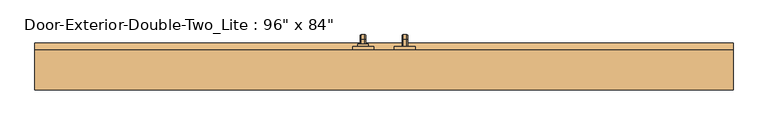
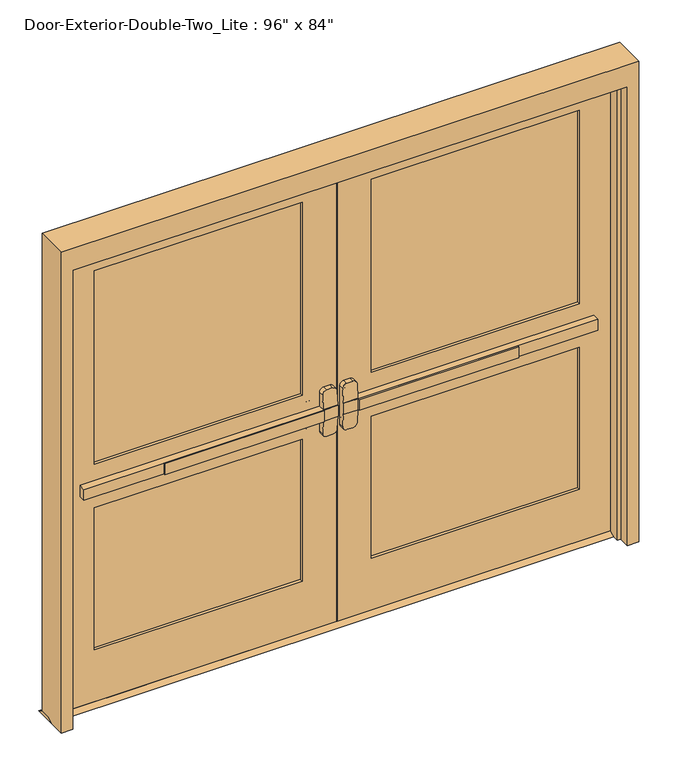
"""IFC4 building model written with IfcOpenShell, lengths in millimetres: door geometry."""

from ifc_helpers import new_model, si_unit, point, frame, frame_2d, origin, place, context, project, spatial, polyline, circle_curve, ellipse_curve, trimmed, segment, composite_curve, outline, extrude, faceted_brep, source, transform, mapped, element, save
from ifc_brep_helpers import plane_surface, cylinder_surface, revolved_surface, advanced_brep


def door_a749ae1c(model_context):
    return source(origin(), model_context, "Body", "SolidModel", [
        extrude(outline(polyline([(-778.9333333, 53.975), (-778.9333333, 60.325), (-76.2, 60.325), (-76.2, 53.975), (-778.9333333, 53.975)])), frame((0.0, 0.0, 990.6), z_axis=(0.0, 0.0, 1.0), x_axis=(1.0, 0.0, 0.0)), (0.0, 0.0, 1.0), 50.8),
        advanced_brep(
        [(-12.7, 60.325, 1041.4), (-76.2, 60.325, 1041.4), (-1130.3, 60.325, 1041.4), (-1130.3, 60.325, 990.6), (-76.2, 60.325, 990.6), (-12.7, 60.325, 990.6), (-1130.3, 92.075, 1041.4), (-76.2, 92.075, 1041.4), (-76.2, 92.075, 1104.9), (-57.15, 92.075, 1123.95), (-31.75, 92.075, 1123.95), (-12.7, 92.075, 1104.9), (-12.7, 92.075, 927.1), (-31.75, 92.075, 908.05), (-57.15, 92.075, 908.05), (-76.2, 92.075, 927.1), (-76.2, 92.075, 990.6), (-1130.3, 92.075, 990.6), (-12.7, 63.5002467, 1041.4), (-76.2, 63.5002467, 1041.4), (-12.7, 63.5002467, 990.6), (-12.7, 68.5104269, 927.1), (-12.7, 68.5104269, 1104.9), (-76.2, 63.5002467, 990.6), (-76.2, 68.5104269, 1104.9), (-76.2, 68.5104269, 927.1), (-57.15, 70.013481, 1123.95), (-31.75, 70.013481, 1123.95), (-31.75, 70.013481, 908.05), (-57.15, 70.013481, 908.05)],
        [
            (0, 1),
            (1, 2),
            (2, 3),
            (3, 4),
            (4, 5),
            (5, 0),
            (6, 7),
            (7, 8),
            (8, 9, circle_curve(frame((-57.15, 92.075, 1104.9), z_axis=(0.0, 1.0, 0.0), x_axis=(-1.0, 0.0, 0.0)), 19.05)),
            (9, 10),
            (10, 11, circle_curve(frame((-31.75, 92.075, 1104.9), z_axis=(0.0, 1.0, 0.0), x_axis=(-1.0, 0.0, 0.0)), 19.05)),
            (11, 12),
            (12, 13, circle_curve(frame((-31.75, 92.075, 927.1), z_axis=(0.0, 1.0, 0.0), x_axis=(-1.0, 0.0, 0.0)), 19.05)),
            (13, 14),
            (14, 15, circle_curve(frame((-57.15, 92.075, 927.1), z_axis=(0.0, 1.0, 0.0), x_axis=(-1.0, 0.0, 0.0)), 19.05)),
            (15, 16),
            (16, 17),
            (17, 6),
            (0, 18),
            (18, 19),
            (19, 7),
            (6, 2),
            (5, 20),
            (20, 21),
            (21, 12),
            (11, 22),
            (22, 18),
            (16, 23),
            (23, 20),
            (3, 17),
            (19, 24),
            (24, 8),
            (15, 25),
            (25, 23),
            (9, 26),
            (26, 27),
            (27, 10),
            (13, 28),
            (28, 29),
            (29, 14),
            (29, 25, ellipse_curve(frame((-57.15, 68.5104269, 927.1), z_axis=(0.0, 0.9969018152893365, 0.07865602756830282), x_axis=(0.0, -0.07865602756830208, 0.9969018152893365)), 19.1092038, 19.05)),
            (24, 26, ellipse_curve(frame((-57.15, 68.5104269, 1104.9), z_axis=(0.0, 0.9969018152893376, -0.07865602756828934), x_axis=(0.0, -0.078656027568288, -0.9969018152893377)), 19.1092038, 19.05)),
            (27, 22, ellipse_curve(frame((-31.75, 68.5104269, 1104.9), z_axis=(0.0, 0.9969018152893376, -0.07865602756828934), x_axis=(0.0, -0.078656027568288, -0.9969018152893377)), 19.1092038, 19.05)),
            (21, 28, ellipse_curve(frame((-31.75, 68.5104269, 927.1), z_axis=(0.0, 0.9969018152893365, 0.07865602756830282), x_axis=(0.0, -0.07865602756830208, 0.9969018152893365)), 19.1092038, 19.05)),
        ],
        [
            plane_surface(frame((-12.7, 60.325, 1041.4), z_axis=(0.0, -1.0, 0.0), x_axis=(1.0, 0.0, 0.0))),
            plane_surface(frame((-12.7, 92.075, 1041.4), z_axis=(0.0, 1.0, 0.0), x_axis=(-1.0, 0.0, 0.0))),
            plane_surface(frame((-1130.3, 60.325, 1041.4), z_axis=(0.0, 0.0, 1.0), x_axis=(0.0, 1.0, 0.0))),
            plane_surface(frame((-12.7, 60.325, 1041.4), z_axis=(1.0, 0.0, 0.0), x_axis=(0.0, 1.0, 0.0))),
            plane_surface(frame((-12.7, 60.325, 990.6), z_axis=(0.0, 0.0, -1.0), x_axis=(0.0, 1.0, 0.0))),
            plane_surface(frame((-1130.3, 60.325, 990.6), z_axis=(-1.0, 0.0, 0.0), x_axis=(0.0, 1.0, 0.0))),
            plane_surface(frame((-76.2, 63.5002467, 927.1), z_axis=(-1.0, 0.0, 0.0), x_axis=(0.0, 1.0, 0.0))),
            plane_surface(frame((-57.15, 63.5002467, 1123.95), z_axis=(0.0, 0.0, 1.0), x_axis=(0.0, 1.0, 0.0))),
            plane_surface(frame((-31.75, 63.5002467, 908.05), z_axis=(0.0, 0.0, -1.0), x_axis=(0.0, 1.0, 0.0))),
            cylinder_surface(frame((-57.15, 92.075, 927.1), z_axis=(0.0, -1.0, 0.0), x_axis=(-1.0, 0.0, 0.0)), 19.05),
            cylinder_surface(frame((-57.15, 92.075, 1104.9), z_axis=(0.0, -1.0, 0.0), x_axis=(-1.0, 0.0, 0.0)), 19.05),
            cylinder_surface(frame((-31.75, 92.075, 1104.9), z_axis=(0.0, -1.0, 0.0), x_axis=(-1.0, 0.0, 0.0)), 19.05),
            cylinder_surface(frame((-31.75, 92.075, 927.1), z_axis=(0.0, -1.0, 0.0), x_axis=(-1.0, 0.0, 0.0)), 19.05),
            plane_surface(frame((-76.2, 63.5002467, 1041.4), z_axis=(0.0, -0.9969018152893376, 0.07865602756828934), x_axis=(1.0, 0.0, 0.0))),
            plane_surface(frame((-76.2, 70.013481, 908.05), z_axis=(0.0, -0.9969018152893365, -0.07865602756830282), x_axis=(1.0, 0.0, 0.0))),
        ],
        [
            (0, [[1, 2, 3, 4, 5, 6]]),
            (1, [[7, 8, 9, 10, 11, 12, 13, 14, 15, 16, 17, 18]]),
            (2, [[-2, -1, 19, 20, 21, -7, 22]]),
            (3, [[23, 24, 25, -12, 26, 27, -19, -6]]),
            (4, [[-17, 28, 29, -23, -5, -4, 30]]),
            (5, [[-22, -18, -30, -3]]),
            (6, [[-21, 31, 32, -8]]),
            (6, [[33, 34, -28, -16]]),
            (7, [[35, 36, 37, -10]]),
            (8, [[38, 39, 40, -14]]),
            (9, [[-40, 41, -33, -15]]),
            (10, [[-32, 42, -35, -9]]),
            (11, [[-37, 43, -26, -11]]),
            (12, [[-25, 44, -38, -13]]),
            (13, [[-27, -43, -36, -42, -31, -20]]),
            (14, [[-29, -34, -41, -39, -44, -24]]),
        ],
    ),
        extrude(outline(polyline([(136.525, 12.7), (161.925, 0.0), (66.675, 0.0), (92.075, 12.7), (136.525, 12.7)])), frame((-1270.0, 0.0, 0.0), z_axis=(1.0, 0.0, 0.0), x_axis=(0.0, 1.0, 0.0)), (0.0, 0.0, 1.0), 2540.0),
        extrude(outline(polyline([(778.9333333, 53.975), (76.2, 53.975), (76.2, 60.325), (778.9333333, 60.325), (778.9333333, 53.975)])), frame((0.0, 0.0, 990.6), z_axis=(0.0, 0.0, 1.0), x_axis=(1.0, 0.0, 0.0)), (0.0, 0.0, 1.0), 50.8),
        advanced_brep(
        [(12.7, 60.325, 1041.4), (12.7, 60.325, 990.6), (76.2, 60.325, 990.6), (1130.3, 60.325, 990.6), (1130.3, 60.325, 1041.4), (76.2, 60.325, 1041.4), (1130.3, 92.075, 1041.4), (1130.3, 92.075, 990.6), (76.2, 92.075, 990.6), (76.2, 92.075, 927.1), (57.15, 92.075, 908.05), (31.75, 92.075, 908.05), (12.7, 92.075, 927.1), (12.7, 92.075, 1104.9), (31.75, 92.075, 1123.95), (57.15, 92.075, 1123.95), (76.2, 92.075, 1104.9), (76.2, 92.075, 1041.4), (76.2, 63.5002467, 1041.4), (12.7, 63.5002467, 1041.4), (12.7, 68.5104269, 1104.9), (12.7, 68.5104269, 927.1), (12.7, 63.5002467, 990.6), (76.2, 63.5002467, 990.6), (76.2, 68.5104269, 927.1), (76.2, 68.5104269, 1104.9), (31.75, 70.013481, 1123.95), (57.15, 70.013481, 1123.95), (57.15, 70.013481, 908.05), (31.75, 70.013481, 908.05)],
        [
            (0, 1),
            (1, 2),
            (2, 3),
            (3, 4),
            (4, 5),
            (5, 0),
            (6, 7),
            (7, 8),
            (8, 9),
            (9, 10, circle_curve(frame((57.15, 92.075, 927.1), z_axis=(0.0, 1.0, 0.0), x_axis=(1.0, 0.0, 0.0)), 19.05)),
            (10, 11),
            (11, 12, circle_curve(frame((31.75, 92.075, 927.1), z_axis=(0.0, 1.0, 0.0), x_axis=(1.0, 0.0, 0.0)), 19.05)),
            (12, 13),
            (13, 14, circle_curve(frame((31.75, 92.075, 1104.9), z_axis=(0.0, 1.0, 0.0), x_axis=(1.0, 0.0, 0.0)), 19.05)),
            (14, 15),
            (15, 16, circle_curve(frame((57.15, 92.075, 1104.9), z_axis=(0.0, 1.0, 0.0), x_axis=(1.0, 0.0, 0.0)), 19.05)),
            (16, 17),
            (17, 6),
            (4, 6),
            (17, 18),
            (18, 19),
            (19, 0),
            (19, 20),
            (20, 13),
            (12, 21),
            (21, 22),
            (22, 1),
            (7, 3),
            (22, 23),
            (23, 8),
            (23, 24),
            (24, 9),
            (16, 25),
            (25, 18),
            (14, 26),
            (26, 27),
            (27, 15),
            (10, 28),
            (28, 29),
            (29, 11),
            (24, 28, ellipse_curve(frame((57.15, 68.5104269, 927.1), z_axis=(0.0, 0.9969018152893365, 0.07865602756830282), x_axis=(0.0, -0.07865602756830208, 0.9969018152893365)), 19.1092038, 19.05)),
            (27, 25, ellipse_curve(frame((57.15, 68.5104269, 1104.9), z_axis=(0.0, 0.9969018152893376, -0.07865602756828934), x_axis=(0.0, -0.078656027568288, -0.9969018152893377)), 19.1092038, 19.05)),
            (20, 26, ellipse_curve(frame((31.75, 68.5104269, 1104.9), z_axis=(0.0, 0.9969018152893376, -0.07865602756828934), x_axis=(0.0, -0.078656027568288, -0.9969018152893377)), 19.1092038, 19.05)),
            (29, 21, ellipse_curve(frame((31.75, 68.5104269, 927.1), z_axis=(0.0, 0.9969018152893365, 0.07865602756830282), x_axis=(0.0, -0.07865602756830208, 0.9969018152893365)), 19.1092038, 19.05)),
        ],
        [
            plane_surface(frame((12.7, 60.325, 1041.4), z_axis=(0.0, -1.0, 0.0), x_axis=(-1.0, 0.0, 0.0))),
            plane_surface(frame((12.7, 92.075, 1041.4), z_axis=(0.0, 1.0, 0.0), x_axis=(1.0, 0.0, 0.0))),
            plane_surface(frame((1130.3, 60.325, 1041.4), z_axis=(0.0, 0.0, 1.0), x_axis=(0.0, 1.0, 0.0))),
            plane_surface(frame((12.7, 60.325, 1041.4), z_axis=(-1.0, 0.0, 0.0), x_axis=(0.0, 1.0, 0.0))),
            plane_surface(frame((12.7, 60.325, 990.6), z_axis=(0.0, 0.0, -1.0), x_axis=(0.0, 1.0, 0.0))),
            plane_surface(frame((1130.3, 60.325, 990.6), z_axis=(1.0, 0.0, 0.0), x_axis=(0.0, 1.0, 0.0))),
            plane_surface(frame((76.2, 63.5002467, 927.1), z_axis=(1.0, 0.0, 0.0), x_axis=(0.0, 1.0, 0.0))),
            plane_surface(frame((57.15, 63.5002467, 1123.95), z_axis=(0.0, 0.0, 1.0), x_axis=(0.0, 1.0, 0.0))),
            plane_surface(frame((31.75, 63.5002467, 908.05), z_axis=(0.0, 0.0, -1.0), x_axis=(0.0, 1.0, 0.0))),
            cylinder_surface(frame((57.15, 92.075, 927.1), z_axis=(0.0, -1.0, 0.0), x_axis=(1.0, 0.0, 0.0)), 19.05),
            cylinder_surface(frame((57.15, 92.075, 1104.9), z_axis=(0.0, -1.0, 0.0), x_axis=(1.0, 0.0, 0.0)), 19.05),
            cylinder_surface(frame((31.75, 92.075, 1104.9), z_axis=(0.0, -1.0, 0.0), x_axis=(1.0, 0.0, 0.0)), 19.05),
            cylinder_surface(frame((31.75, 92.075, 927.1), z_axis=(0.0, -1.0, 0.0), x_axis=(1.0, 0.0, 0.0)), 19.05),
            plane_surface(frame((76.2, 63.5002467, 1041.4), z_axis=(0.0, -0.9969018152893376, 0.07865602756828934), x_axis=(-1.0, 0.0, 0.0))),
            plane_surface(frame((76.2, 70.013481, 908.05), z_axis=(0.0, -0.9969018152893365, -0.07865602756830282), x_axis=(-1.0, 0.0, 0.0))),
        ],
        [
            (0, [[1, 2, 3, 4, 5, 6]]),
            (1, [[7, 8, 9, 10, 11, 12, 13, 14, 15, 16, 17, 18]]),
            (2, [[19, -18, 20, 21, 22, -6, -5]]),
            (3, [[-1, -22, 23, 24, -13, 25, 26, 27]]),
            (4, [[28, -3, -2, -27, 29, 30, -8]]),
            (5, [[-4, -28, -7, -19]]),
            (6, [[-9, -30, 31, 32]]),
            (6, [[-17, 33, 34, -20]]),
            (7, [[-15, 35, 36, 37]]),
            (8, [[-11, 38, 39, 40]]),
            (9, [[-10, -32, 41, -38]]),
            (10, [[-16, -37, 42, -33]]),
            (11, [[-14, -24, 43, -35]]),
            (12, [[-12, -40, 44, -25]]),
            (13, [[-21, -34, -42, -36, -43, -23]]),
            (14, [[-26, -44, -39, -41, -31, -29]]),
        ],
    ),
        advanced_brep(
        [(66.2, 149.225, 1017.190625), (66.2, 149.225, 1014.809375), (69.771875, 149.225, 1011.2375), (82.6284594, 149.225, 1011.2375), (86.2, 149.225, 1014.8090406), (86.2, 149.225, 1017.190625), (82.628125, 149.225, 1020.7625), (69.771875, 149.225, 1020.7625), (66.2, 149.225, 887.809375), (69.771875, 149.225, 884.2375), (82.628125, 149.225, 884.2375), (86.2, 149.225, 887.809375), (86.2, 149.225, 890.1909594), (82.6284594, 149.225, 893.7625), (69.771875, 149.225, 893.7625), (66.2, 149.225, 890.190625), (66.2, 174.625, 1017.190625), (66.2, 188.515625, 1003.3), (66.2, 188.515625, 901.7), (66.2, 174.625, 887.809375), (66.2, 174.625, 890.190625), (66.2, 186.134375, 901.7), (66.2, 186.134375, 1003.3), (66.2, 174.625, 1014.809375), (69.771875, 174.625, 1011.2375), (82.6284594, 174.625, 1011.2375), (86.2, 174.625, 1014.8090406), (86.2, 186.1340406, 1003.3), (86.2, 186.1340406, 901.7), (86.2, 174.625, 890.1909594), (86.2, 174.625, 887.809375), (86.2, 188.515625, 901.7), (86.2, 188.515625, 1003.3), (86.2, 174.625, 1017.190625), (82.628125, 174.625, 1020.7625), (69.771875, 174.625, 1020.7625), (69.771875, 182.5625, 1003.3), (82.6284594, 182.5625, 1003.3), (82.628125, 192.0875, 1003.3), (69.771875, 192.0875, 1003.3), (69.771875, 182.5625, 901.7), (82.6284594, 182.5625, 901.7), (82.628125, 192.0875, 901.7), (69.771875, 192.0875, 901.7), (69.771875, 174.625, 893.7625), (82.6284594, 174.625, 893.7625), (82.628125, 174.625, 884.2375), (69.771875, 174.625, 884.2375)],
        [
            (0, 1),
            (1, 2, circle_curve(frame((69.771875, 149.225, 1014.809375), z_axis=(0.0, -1.0, 0.0), x_axis=(0.0, 0.0, 1.0)), 3.571875)),
            (2, 3),
            (3, 4, circle_curve(frame((82.6284594, 149.225, 1014.8090406), z_axis=(0.0, -1.0, 0.0), x_axis=(0.0, 0.0, 1.0)), 3.5715406)),
            (4, 5),
            (5, 6, circle_curve(frame((82.628125, 149.225, 1017.190625), z_axis=(0.0, -1.0, 0.0), x_axis=(0.0, 0.0, 1.0)), 3.571875)),
            (6, 7),
            (7, 0, circle_curve(frame((69.771875, 149.225, 1017.190625), z_axis=(0.0, -1.0, 0.0), x_axis=(0.0, 0.0, 1.0)), 3.571875)),
            (8, 9, circle_curve(frame((69.771875, 149.225, 887.809375), z_axis=(0.0, -1.0, 0.0), x_axis=(0.0, 0.0, -1.0)), 3.571875)),
            (9, 10),
            (10, 11, circle_curve(frame((82.628125, 149.225, 887.809375), z_axis=(0.0, -1.0, 0.0), x_axis=(0.0, 0.0, -1.0)), 3.571875)),
            (11, 12),
            (12, 13, circle_curve(frame((82.6284594, 149.225, 890.1909594), z_axis=(0.0, -1.0, 0.0), x_axis=(0.0, 0.0, -1.0)), 3.5715406)),
            (13, 14),
            (14, 15, circle_curve(frame((69.771875, 149.225, 890.190625), z_axis=(0.0, -1.0, 0.0), x_axis=(0.0, 0.0, -1.0)), 3.571875)),
            (15, 8),
            (0, 16),
            (16, 17, circle_curve(frame((66.2, 174.625, 1003.3), z_axis=(-1.0, 0.0, 0.0), x_axis=(0.0, 0.0, 1.0)), 13.890625)),
            (17, 18),
            (18, 19, circle_curve(frame((66.2, 174.625, 901.7), z_axis=(-1.0, 0.0, 0.0), x_axis=(0.0, 1.0, 0.0)), 13.890625)),
            (19, 8),
            (15, 20),
            (20, 21, circle_curve(frame((66.2, 174.625, 901.7), z_axis=(1.0, 0.0, 0.0), x_axis=(0.0, 1.0, 0.0)), 11.509375)),
            (21, 22),
            (22, 23, circle_curve(frame((66.2, 174.625, 1003.3), z_axis=(1.0, 0.0, 0.0), x_axis=(0.0, 0.0, 1.0)), 11.509375)),
            (23, 1),
            (23, 24, circle_curve(frame((69.771875, 174.625, 1014.809375), z_axis=(0.0, -1.0, 0.0), x_axis=(0.0, 0.0, 1.0)), 3.571875)),
            (24, 2),
            (24, 25),
            (25, 3),
            (25, 26, circle_curve(frame((82.6284594, 174.625, 1014.8090406), z_axis=(0.0, -1.0, 0.0), x_axis=(0.0, 0.0, 1.0)), 3.5715406)),
            (26, 4),
            (26, 27, circle_curve(frame((86.2, 174.625, 1003.3), z_axis=(-1.0, 0.0, 0.0), x_axis=(0.0, 0.0, 1.0)), 11.5090406)),
            (27, 28),
            (28, 29, circle_curve(frame((86.2, 174.625, 901.7), z_axis=(-1.0, 0.0, 0.0), x_axis=(0.0, 1.0, 0.0)), 11.5090406)),
            (29, 12),
            (11, 30),
            (30, 31, circle_curve(frame((86.2, 174.625, 901.7), z_axis=(1.0, 0.0, 0.0), x_axis=(0.0, 1.0, 0.0)), 13.890625)),
            (31, 32),
            (32, 33, circle_curve(frame((86.2, 174.625, 1003.3), z_axis=(1.0, 0.0, 0.0), x_axis=(0.0, 0.0, 1.0)), 13.890625)),
            (33, 5),
            (33, 34, circle_curve(frame((82.628125, 174.625, 1017.190625), z_axis=(0.0, -1.0, 0.0), x_axis=(0.0, 0.0, 1.0)), 3.571875)),
            (34, 6),
            (34, 35),
            (35, 7),
            (35, 16, circle_curve(frame((69.771875, 174.625, 1017.190625), z_axis=(0.0, -1.0, 0.0), x_axis=(0.0, 0.0, 1.0)), 3.571875)),
            (36, 24, circle_curve(frame((69.771875, 174.625, 1003.3), z_axis=(1.0, 0.0, 0.0), x_axis=(0.0, 0.0, 1.0)), 7.9375)),
            (22, 36, circle_curve(frame((69.771875, 186.134375, 1003.3), z_axis=(0.0, 0.0, 1.0), x_axis=(0.0, 1.0, 0.0)), 3.571875)),
            (37, 25, circle_curve(frame((82.6284594, 174.625, 1003.3), z_axis=(1.0, 0.0, 0.0), x_axis=(0.0, 0.0, 1.0)), 7.9375)),
            (36, 37),
            (37, 27, circle_curve(frame((82.6284594, 186.1340406, 1003.3), z_axis=(0.0, 0.0, 1.0), x_axis=(0.0, 1.0, 0.0)), 3.5715406)),
            (38, 34, circle_curve(frame((82.628125, 174.625, 1003.3), z_axis=(1.0, 0.0, 0.0), x_axis=(0.0, 0.0, 1.0)), 17.4625)),
            (32, 38, circle_curve(frame((82.628125, 188.515625, 1003.3), z_axis=(0.0, 0.0, 1.0), x_axis=(0.0, 1.0, 0.0)), 3.571875)),
            (39, 35, circle_curve(frame((69.771875, 174.625, 1003.3), z_axis=(1.0, 0.0, 0.0), x_axis=(0.0, 0.0, 1.0)), 17.4625)),
            (38, 39),
            (39, 17, circle_curve(frame((69.771875, 188.515625, 1003.3), z_axis=(0.0, 0.0, 1.0), x_axis=(0.0, 1.0, 0.0)), 3.571875)),
            (21, 40, circle_curve(frame((69.771875, 186.134375, 901.7), z_axis=(0.0, 0.0, 1.0), x_axis=(0.0, 1.0, 0.0)), 3.571875)),
            (40, 36),
            (40, 41),
            (41, 37),
            (41, 28, circle_curve(frame((82.6284594, 186.1340406, 901.7), z_axis=(0.0, 0.0, 1.0), x_axis=(0.0, 1.0, 0.0)), 3.5715406)),
            (31, 42, circle_curve(frame((82.628125, 188.515625, 901.7), z_axis=(0.0, 0.0, 1.0), x_axis=(0.0, 1.0, 0.0)), 3.571875)),
            (42, 38),
            (42, 43),
            (43, 39),
            (43, 18, circle_curve(frame((69.771875, 188.515625, 901.7), z_axis=(0.0, 0.0, 1.0), x_axis=(0.0, 1.0, 0.0)), 3.571875)),
            (44, 40, circle_curve(frame((69.771875, 174.625, 901.7), z_axis=(1.0, 0.0, 0.0), x_axis=(0.0, 1.0, 0.0)), 7.9375)),
            (20, 44, circle_curve(frame((69.771875, 174.625, 890.190625), z_axis=(0.0, 1.0, 0.0), x_axis=(0.0, 0.0, -1.0)), 3.571875)),
            (45, 41, circle_curve(frame((82.6284594, 174.625, 901.7), z_axis=(1.0, 0.0, 0.0), x_axis=(0.0, 1.0, 0.0)), 7.9375)),
            (44, 45),
            (45, 29, circle_curve(frame((82.6284594, 174.625, 890.1909594), z_axis=(0.0, 1.0, 0.0), x_axis=(0.0, 0.0, -1.0)), 3.5715406)),
            (46, 42, circle_curve(frame((82.628125, 174.625, 901.7), z_axis=(1.0, 0.0, 0.0), x_axis=(0.0, 1.0, 0.0)), 17.4625)),
            (30, 46, circle_curve(frame((82.628125, 174.625, 887.809375), z_axis=(0.0, 1.0, 0.0), x_axis=(0.0, 0.0, -1.0)), 3.571875)),
            (47, 43, circle_curve(frame((69.771875, 174.625, 901.7), z_axis=(1.0, 0.0, 0.0), x_axis=(0.0, 1.0, 0.0)), 17.4625)),
            (46, 47),
            (47, 19, circle_curve(frame((69.771875, 174.625, 887.809375), z_axis=(0.0, 1.0, 0.0), x_axis=(0.0, 0.0, -1.0)), 3.571875)),
            (14, 44),
            (13, 45),
            (10, 46),
            (9, 47),
        ],
        [
            plane_surface(frame((76.2, 149.225, 1016.0), z_axis=(0.0, -1.0, 0.0), x_axis=(1.0, 0.0, 0.0))),
            plane_surface(frame((76.2, 149.225, 889.0), z_axis=(0.0, -1.0, 0.0), x_axis=(1.0, 0.0, 0.0))),
            plane_surface(frame((66.2, 149.225, 1017.190625), z_axis=(-1.0, 0.0, 0.0), x_axis=(0.0, 1.0, 0.0))),
            cylinder_surface(frame((69.771875, 149.225, 1014.809375), z_axis=(0.0, -1.0, 0.0), x_axis=(0.0, 0.0, 1.0)), 3.571875),
            plane_surface(frame((69.771875, 149.225, 1011.2375), z_axis=(0.0, 0.0, -1.0), x_axis=(0.0, 1.0, 0.0))),
            cylinder_surface(frame((82.6284594, 149.225, 1014.8090406), z_axis=(0.0, -1.0, 0.0), x_axis=(0.0, 0.0, 1.0)), 3.5715406),
            plane_surface(frame((86.2, 149.225, 1014.8090406), z_axis=(1.0, 0.0, 0.0), x_axis=(0.0, 1.0, 0.0))),
            cylinder_surface(frame((82.628125, 149.225, 1017.190625), z_axis=(0.0, -1.0, 0.0), x_axis=(0.0, 0.0, 1.0)), 3.571875),
            plane_surface(frame((82.628125, 149.225, 1020.7625), z_axis=(0.0, 0.0, 1.0), x_axis=(0.0, 1.0, 0.0))),
            cylinder_surface(frame((69.771875, 149.225, 1017.190625), z_axis=(0.0, -1.0, 0.0), x_axis=(0.0, 0.0, 1.0)), 3.571875),
            revolved_surface(trimmed(ellipse_curve(frame((69.771875, 174.625, 1014.809375), z_axis=(0.0, -1.0, 0.0), x_axis=(0.0, 0.0, 1.0)), 3.571875, 3.571875), [point((66.2, 174.625, 1014.809375))], [point((69.771875, 174.625, 1011.2375))], True, "CARTESIAN"), (76.2, 174.625, 1003.3), (-1.0, 0.0, 0.0)),
            revolved_surface(polyline([(69.771875, 174.625, 1011.2375), (82.6284594, 174.625, 1011.2375)]), (76.2, 174.625, 1003.3), (-1.0, 0.0, 0.0)),
            revolved_surface(trimmed(ellipse_curve(frame((82.6284594, 174.625, 1014.8090406), z_axis=(0.0, -1.0, 0.0), x_axis=(0.0, 0.0, 1.0)), 3.5715406, 3.5715406), [point((82.6284594, 174.625, 1011.2375))], [point((86.2, 174.625, 1014.8090406))], True, "CARTESIAN"), (76.2, 174.625, 1003.3), (-1.0, 0.0, 0.0)),
            revolved_surface(trimmed(ellipse_curve(frame((82.628125, 174.625, 1017.190625), z_axis=(0.0, -1.0, 0.0), x_axis=(0.0, 0.0, 1.0)), 3.571875, 3.571875), [point((86.2, 174.625, 1017.190625))], [point((82.628125, 174.625, 1020.7625))], True, "CARTESIAN"), (76.2, 174.625, 1003.3), (-1.0, 0.0, 0.0)),
            cylinder_surface(frame((76.2, 174.625, 1003.3), z_axis=(-1.0, 0.0, 0.0), x_axis=(0.0, 0.0, 1.0)), 17.4625),
            revolved_surface(trimmed(ellipse_curve(frame((69.771875, 174.625, 1017.190625), z_axis=(0.0, -1.0, 0.0), x_axis=(0.0, 0.0, 1.0)), 3.571875, 3.571875), [point((69.771875, 174.625, 1020.7625))], [point((66.2, 174.625, 1017.190625))], True, "CARTESIAN"), (76.2, 174.625, 1003.3), (-1.0, 0.0, 0.0)),
            cylinder_surface(frame((69.771875, 186.134375, 1003.3), z_axis=(0.0, 0.0, 1.0), x_axis=(0.0, 1.0, 0.0)), 3.571875),
            plane_surface(frame((69.771875, 182.5625, 1003.3), z_axis=(0.0, -1.0, 0.0), x_axis=(0.0, 0.0, -1.0))),
            cylinder_surface(frame((82.6284594, 186.1340406, 1003.3), z_axis=(0.0, 0.0, 1.0), x_axis=(0.0, 1.0, 0.0)), 3.5715406),
            cylinder_surface(frame((82.628125, 188.515625, 1003.3), z_axis=(0.0, 0.0, 1.0), x_axis=(0.0, 1.0, 0.0)), 3.571875),
            plane_surface(frame((82.628125, 192.0875, 1003.3), z_axis=(0.0, 1.0, 0.0), x_axis=(0.0, 0.0, -1.0))),
            cylinder_surface(frame((69.771875, 188.515625, 1003.3), z_axis=(0.0, 0.0, 1.0), x_axis=(0.0, 1.0, 0.0)), 3.571875),
            revolved_surface(trimmed(ellipse_curve(frame((69.771875, 186.134375, 901.7), z_axis=(0.0, 0.0, 1.0), x_axis=(0.0, 1.0, 0.0)), 3.571875, 3.571875), [point((66.2, 186.134375, 901.7))], [point((69.771875, 182.5625, 901.7))], True, "CARTESIAN"), (76.2, 174.625, 901.7), (-1.0, 0.0, 0.0)),
            revolved_surface(polyline([(69.771875, 182.5625, 901.7), (82.6284594, 182.5625, 901.7)]), (76.2, 174.625, 901.7), (-1.0, 0.0, 0.0)),
            revolved_surface(trimmed(ellipse_curve(frame((82.6284594, 186.1340406, 901.7), z_axis=(0.0, 0.0, 1.0), x_axis=(0.0, 1.0, 0.0)), 3.5715406, 3.5715406), [point((82.6284594, 182.5625, 901.7))], [point((86.2, 186.1340406, 901.7))], True, "CARTESIAN"), (76.2, 174.625, 901.7), (-1.0, 0.0, 0.0)),
            revolved_surface(trimmed(ellipse_curve(frame((82.628125, 188.515625, 901.7), z_axis=(0.0, 0.0, 1.0), x_axis=(0.0, 1.0, 0.0)), 3.571875, 3.571875), [point((86.2, 188.515625, 901.7))], [point((82.628125, 192.0875, 901.7))], True, "CARTESIAN"), (76.2, 174.625, 901.7), (-1.0, 0.0, 0.0)),
            cylinder_surface(frame((76.2, 174.625, 901.7), z_axis=(-1.0, 0.0, 0.0), x_axis=(0.0, 1.0, 0.0)), 17.4625),
            revolved_surface(trimmed(ellipse_curve(frame((69.771875, 188.515625, 901.7), z_axis=(0.0, 0.0, 1.0), x_axis=(0.0, 1.0, 0.0)), 3.571875, 3.571875), [point((69.771875, 192.0875, 901.7))], [point((66.2, 188.515625, 901.7))], True, "CARTESIAN"), (76.2, 174.625, 901.7), (-1.0, 0.0, 0.0)),
            cylinder_surface(frame((69.771875, 174.625, 890.190625), z_axis=(0.0, 1.0, 0.0), x_axis=(0.0, 0.0, -1.0)), 3.571875),
            plane_surface(frame((69.771875, 174.625, 893.7625), z_axis=(0.0, 0.0, 1.0), x_axis=(0.0, -1.0, 0.0))),
            cylinder_surface(frame((82.6284594, 174.625, 890.1909594), z_axis=(0.0, 1.0, 0.0), x_axis=(0.0, 0.0, -1.0)), 3.5715406),
            cylinder_surface(frame((82.628125, 174.625, 887.809375), z_axis=(0.0, 1.0, 0.0), x_axis=(0.0, 0.0, -1.0)), 3.571875),
            plane_surface(frame((82.628125, 174.625, 884.2375), z_axis=(0.0, 0.0, -1.0), x_axis=(0.0, -1.0, 0.0))),
            cylinder_surface(frame((69.771875, 174.625, 887.809375), z_axis=(0.0, 1.0, 0.0), x_axis=(0.0, 0.0, -1.0)), 3.571875),
        ],
        [
            (0, [[1, 2, 3, 4, 5, 6, 7, 8]]),
            (1, [[9, 10, 11, 12, 13, 14, 15, 16]]),
            (2, [[-1, 17, 18, 19, 20, 21, -16, 22, 23, 24, 25, 26]]),
            (3, [[-2, -26, 27, 28]]),
            (4, [[-3, -28, 29, 30]]),
            (5, [[-4, -30, 31, 32]]),
            (6, [[-5, -32, 33, 34, 35, 36, -12, 37, 38, 39, 40, 41]]),
            (7, [[-6, -41, 42, 43]]),
            (8, [[-7, -43, 44, 45]]),
            (9, [[-8, -45, 46, -17]]),
            (10, [[47, -27, -25, 48]]),
            (11, [[49, -29, -47, 50]]),
            (12, [[-33, -31, -49, 51]]),
            (13, [[52, -42, -40, 53]]),
            (14, [[54, -44, -52, 55]]),
            (15, [[-18, -46, -54, 56]]),
            (16, [[-48, -24, 57, 58]]),
            (17, [[-50, -58, 59, 60]]),
            (18, [[-51, -60, 61, -34]]),
            (19, [[-53, -39, 62, 63]]),
            (20, [[-55, -63, 64, 65]]),
            (21, [[-56, -65, 66, -19]]),
            (22, [[67, -57, -23, 68]]),
            (23, [[69, -59, -67, 70]]),
            (24, [[-35, -61, -69, 71]]),
            (25, [[72, -62, -38, 73]]),
            (26, [[74, -64, -72, 75]]),
            (27, [[-20, -66, -74, 76]]),
            (28, [[-68, -22, -15, 77]]),
            (29, [[-70, -77, -14, 78]]),
            (30, [[-71, -78, -13, -36]]),
            (31, [[-73, -37, -11, 79]]),
            (32, [[-75, -79, -10, 80]]),
            (33, [[-76, -80, -9, -21]]),
        ],
    ),
        extrude(outline(composite_curve([segment(trimmed(circle_curve(frame_2d((1113.0338574, 76.2)), 89.3016225), [point((1193.8, 114.3))], [point((1193.8, 38.1))], False, "CARTESIAN"), True, "CONTINUOUS"), segment(polyline([(1193.8, 38.1), (838.2, 38.1)]), True, "CONTINUOUS"), segment(trimmed(circle_curve(frame_2d((918.9661426, 76.2)), 89.3016225), [point((838.2, 38.1))], [point((838.2, 114.3))], False, "CARTESIAN"), True, "CONTINUOUS"), segment(polyline([(838.2, 114.3), (1193.8, 114.3)]), True, "CONTINUOUS")], self_intersect=False)), frame((0.0, 136.525, 0.0), z_axis=(0.0, 1.0, 0.0), x_axis=(0.0, 0.0, 1.0)), (0.0, 0.0, 1.0), 12.7),
        advanced_brep(
        [(-86.2, 149.225, 1017.190625), (-86.2, 149.225, 1014.809375), (-82.628125, 149.225, 1011.2375), (-69.7715406, 149.225, 1011.2375), (-66.2, 149.225, 1014.8090406), (-66.2, 149.225, 1017.190625), (-69.771875, 149.225, 1020.7625), (-82.628125, 149.225, 1020.7625), (-86.2, 149.225, 887.809375), (-82.628125, 149.225, 884.2375), (-69.771875, 149.225, 884.2375), (-66.2, 149.225, 887.809375), (-66.2, 149.225, 890.1909594), (-69.7715406, 149.225, 893.7625), (-82.628125, 149.225, 893.7625), (-86.2, 149.225, 890.190625), (-86.2, 174.625, 1017.190625), (-86.2, 188.515625, 1003.3), (-86.2, 188.515625, 901.7), (-86.2, 174.625, 887.809375), (-86.2, 174.625, 890.190625), (-86.2, 186.134375, 901.7), (-86.2, 186.134375, 1003.3), (-86.2, 174.625, 1014.809375), (-82.628125, 174.625, 1011.2375), (-69.7715406, 174.625, 1011.2375), (-66.2, 174.625, 1014.8090406), (-66.2, 186.1340406, 1003.3), (-66.2, 186.1340406, 901.7), (-66.2, 174.625, 890.1909594), (-66.2, 174.625, 887.809375), (-66.2, 188.515625, 901.7), (-66.2, 188.515625, 1003.3), (-66.2, 174.625, 1017.190625), (-69.771875, 174.625, 1020.7625), (-82.628125, 174.625, 1020.7625), (-82.628125, 182.5625, 1003.3), (-69.7715406, 182.5625, 1003.3), (-69.771875, 192.0875, 1003.3), (-82.628125, 192.0875, 1003.3), (-82.628125, 182.5625, 901.7), (-69.7715406, 182.5625, 901.7), (-69.771875, 192.0875, 901.7), (-82.628125, 192.0875, 901.7), (-82.628125, 174.625, 893.7625), (-69.7715406, 174.625, 893.7625), (-69.771875, 174.625, 884.2375), (-82.628125, 174.625, 884.2375)],
        [
            (0, 1),
            (1, 2, circle_curve(frame((-82.628125, 149.225, 1014.809375), z_axis=(0.0, -1.0, 0.0), x_axis=(0.0, 0.0, 1.0)), 3.571875)),
            (2, 3),
            (3, 4, circle_curve(frame((-69.7715406, 149.225, 1014.8090406), z_axis=(0.0, -1.0, 0.0), x_axis=(0.0, 0.0, 1.0)), 3.5715406)),
            (4, 5),
            (5, 6, circle_curve(frame((-69.771875, 149.225, 1017.190625), z_axis=(0.0, -1.0, 0.0), x_axis=(0.0, 0.0, 1.0)), 3.571875)),
            (6, 7),
            (7, 0, circle_curve(frame((-82.628125, 149.225, 1017.190625), z_axis=(0.0, -1.0, 0.0), x_axis=(0.0, 0.0, 1.0)), 3.571875)),
            (8, 9, circle_curve(frame((-82.628125, 149.225, 887.809375), z_axis=(0.0, -1.0, 0.0), x_axis=(0.0, 0.0, -1.0)), 3.571875)),
            (9, 10),
            (10, 11, circle_curve(frame((-69.771875, 149.225, 887.809375), z_axis=(0.0, -1.0, 0.0), x_axis=(0.0, 0.0, -1.0)), 3.571875)),
            (11, 12),
            (12, 13, circle_curve(frame((-69.7715406, 149.225, 890.1909594), z_axis=(0.0, -1.0, 0.0), x_axis=(0.0, 0.0, -1.0)), 3.5715406)),
            (13, 14),
            (14, 15, circle_curve(frame((-82.628125, 149.225, 890.190625), z_axis=(0.0, -1.0, 0.0), x_axis=(0.0, 0.0, -1.0)), 3.571875)),
            (15, 8),
            (0, 16),
            (16, 17, circle_curve(frame((-86.2, 174.625, 1003.3), z_axis=(-1.0, 0.0, 0.0), x_axis=(0.0, 0.0, 1.0)), 13.890625)),
            (17, 18),
            (18, 19, circle_curve(frame((-86.2, 174.625, 901.7), z_axis=(-1.0, 0.0, 0.0), x_axis=(0.0, 1.0, 0.0)), 13.890625)),
            (19, 8),
            (15, 20),
            (20, 21, circle_curve(frame((-86.2, 174.625, 901.7), z_axis=(1.0, 0.0, 0.0), x_axis=(0.0, 1.0, 0.0)), 11.509375)),
            (21, 22),
            (22, 23, circle_curve(frame((-86.2, 174.625, 1003.3), z_axis=(1.0, 0.0, 0.0), x_axis=(0.0, 0.0, 1.0)), 11.509375)),
            (23, 1),
            (23, 24, circle_curve(frame((-82.628125, 174.625, 1014.809375), z_axis=(0.0, -1.0, 0.0), x_axis=(0.0, 0.0, 1.0)), 3.571875)),
            (24, 2),
            (24, 25),
            (25, 3),
            (25, 26, circle_curve(frame((-69.7715406, 174.625, 1014.8090406), z_axis=(0.0, -1.0, 0.0), x_axis=(0.0, 0.0, 1.0)), 3.5715406)),
            (26, 4),
            (26, 27, circle_curve(frame((-66.2, 174.625, 1003.3), z_axis=(-1.0, 0.0, 0.0), x_axis=(0.0, 0.0, 1.0)), 11.5090406)),
            (27, 28),
            (28, 29, circle_curve(frame((-66.2, 174.625, 901.7), z_axis=(-1.0, 0.0, 0.0), x_axis=(0.0, 1.0, 0.0)), 11.5090406)),
            (29, 12),
            (11, 30),
            (30, 31, circle_curve(frame((-66.2, 174.625, 901.7), z_axis=(1.0, 0.0, 0.0), x_axis=(0.0, 1.0, 0.0)), 13.890625)),
            (31, 32),
            (32, 33, circle_curve(frame((-66.2, 174.625, 1003.3), z_axis=(1.0, 0.0, 0.0), x_axis=(0.0, 0.0, 1.0)), 13.890625)),
            (33, 5),
            (33, 34, circle_curve(frame((-69.771875, 174.625, 1017.190625), z_axis=(0.0, -1.0, 0.0), x_axis=(0.0, 0.0, 1.0)), 3.571875)),
            (34, 6),
            (34, 35),
            (35, 7),
            (35, 16, circle_curve(frame((-82.628125, 174.625, 1017.190625), z_axis=(0.0, -1.0, 0.0), x_axis=(0.0, 0.0, 1.0)), 3.571875)),
            (36, 24, circle_curve(frame((-82.628125, 174.625, 1003.3), z_axis=(1.0, 0.0, 0.0), x_axis=(0.0, 0.0, 1.0)), 7.9375)),
            (22, 36, circle_curve(frame((-82.628125, 186.134375, 1003.3), z_axis=(0.0, 0.0, 1.0), x_axis=(0.0, 1.0, 0.0)), 3.571875)),
            (37, 25, circle_curve(frame((-69.7715406, 174.625, 1003.3), z_axis=(1.0, 0.0, 0.0), x_axis=(0.0, 0.0, 1.0)), 7.9375)),
            (36, 37),
            (37, 27, circle_curve(frame((-69.7715406, 186.1340406, 1003.3), z_axis=(0.0, 0.0, 1.0), x_axis=(0.0, 1.0, 0.0)), 3.5715406)),
            (38, 34, circle_curve(frame((-69.771875, 174.625, 1003.3), z_axis=(1.0, 0.0, 0.0), x_axis=(0.0, 0.0, 1.0)), 17.4625)),
            (32, 38, circle_curve(frame((-69.771875, 188.515625, 1003.3), z_axis=(0.0, 0.0, 1.0), x_axis=(0.0, 1.0, 0.0)), 3.571875)),
            (39, 35, circle_curve(frame((-82.628125, 174.625, 1003.3), z_axis=(1.0, 0.0, 0.0), x_axis=(0.0, 0.0, 1.0)), 17.4625)),
            (38, 39),
            (39, 17, circle_curve(frame((-82.628125, 188.515625, 1003.3), z_axis=(0.0, 0.0, 1.0), x_axis=(0.0, 1.0, 0.0)), 3.571875)),
            (21, 40, circle_curve(frame((-82.628125, 186.134375, 901.7), z_axis=(0.0, 0.0, 1.0), x_axis=(0.0, 1.0, 0.0)), 3.571875)),
            (40, 36),
            (40, 41),
            (41, 37),
            (41, 28, circle_curve(frame((-69.7715406, 186.1340406, 901.7), z_axis=(0.0, 0.0, 1.0), x_axis=(0.0, 1.0, 0.0)), 3.5715406)),
            (31, 42, circle_curve(frame((-69.771875, 188.515625, 901.7), z_axis=(0.0, 0.0, 1.0), x_axis=(0.0, 1.0, 0.0)), 3.571875)),
            (42, 38),
            (42, 43),
            (43, 39),
            (43, 18, circle_curve(frame((-82.628125, 188.515625, 901.7), z_axis=(0.0, 0.0, 1.0), x_axis=(0.0, 1.0, 0.0)), 3.571875)),
            (44, 40, circle_curve(frame((-82.628125, 174.625, 901.7), z_axis=(1.0, 0.0, 0.0), x_axis=(0.0, 1.0, 0.0)), 7.9375)),
            (20, 44, circle_curve(frame((-82.628125, 174.625, 890.190625), z_axis=(0.0, 1.0, 0.0), x_axis=(0.0, 0.0, -1.0)), 3.571875)),
            (45, 41, circle_curve(frame((-69.7715406, 174.625, 901.7), z_axis=(1.0, 0.0, 0.0), x_axis=(0.0, 1.0, 0.0)), 7.9375)),
            (44, 45),
            (45, 29, circle_curve(frame((-69.7715406, 174.625, 890.1909594), z_axis=(0.0, 1.0, 0.0), x_axis=(0.0, 0.0, -1.0)), 3.5715406)),
            (46, 42, circle_curve(frame((-69.771875, 174.625, 901.7), z_axis=(1.0, 0.0, 0.0), x_axis=(0.0, 1.0, 0.0)), 17.4625)),
            (30, 46, circle_curve(frame((-69.771875, 174.625, 887.809375), z_axis=(0.0, 1.0, 0.0), x_axis=(0.0, 0.0, -1.0)), 3.571875)),
            (47, 43, circle_curve(frame((-82.628125, 174.625, 901.7), z_axis=(1.0, 0.0, 0.0), x_axis=(0.0, 1.0, 0.0)), 17.4625)),
            (46, 47),
            (47, 19, circle_curve(frame((-82.628125, 174.625, 887.809375), z_axis=(0.0, 1.0, 0.0), x_axis=(0.0, 0.0, -1.0)), 3.571875)),
            (14, 44),
            (13, 45),
            (10, 46),
            (9, 47),
        ],
        [
            plane_surface(frame((-76.2, 149.225, 1016.0), z_axis=(0.0, -1.0, 0.0), x_axis=(1.0, 0.0, 0.0))),
            plane_surface(frame((-76.2, 149.225, 889.0), z_axis=(0.0, -1.0, 0.0), x_axis=(1.0, 0.0, 0.0))),
            plane_surface(frame((-86.2, 149.225, 1017.190625), z_axis=(-1.0, 0.0, 0.0), x_axis=(0.0, 1.0, 0.0))),
            cylinder_surface(frame((-82.628125, 149.225, 1014.809375), z_axis=(0.0, -1.0, 0.0), x_axis=(0.0, 0.0, 1.0)), 3.571875),
            plane_surface(frame((-82.628125, 149.225, 1011.2375), z_axis=(0.0, 0.0, -1.0), x_axis=(0.0, 1.0, 0.0))),
            cylinder_surface(frame((-69.7715406, 149.225, 1014.8090406), z_axis=(0.0, -1.0, 0.0), x_axis=(0.0, 0.0, 1.0)), 3.5715406),
            plane_surface(frame((-66.2, 149.225, 1014.8090406), z_axis=(1.0, 0.0, 0.0), x_axis=(0.0, 1.0, 0.0))),
            cylinder_surface(frame((-69.771875, 149.225, 1017.190625), z_axis=(0.0, -1.0, 0.0), x_axis=(0.0, 0.0, 1.0)), 3.571875),
            plane_surface(frame((-69.771875, 149.225, 1020.7625), z_axis=(0.0, 0.0, 1.0), x_axis=(0.0, 1.0, 0.0))),
            cylinder_surface(frame((-82.628125, 149.225, 1017.190625), z_axis=(0.0, -1.0, 0.0), x_axis=(0.0, 0.0, 1.0)), 3.571875),
            revolved_surface(trimmed(ellipse_curve(frame((-82.628125, 174.625, 1014.809375), z_axis=(0.0, -1.0, 0.0), x_axis=(0.0, 0.0, 1.0)), 3.571875, 3.571875), [point((-86.2, 174.625, 1014.809375))], [point((-82.628125, 174.625, 1011.2375))], True, "CARTESIAN"), (-76.2, 174.625, 1003.3), (-1.0, 0.0, 0.0)),
            revolved_surface(polyline([(-82.628125, 174.625, 1011.2375), (-69.7715406, 174.625, 1011.2375)]), (-76.2, 174.625, 1003.3), (-1.0, 0.0, 0.0)),
            revolved_surface(trimmed(ellipse_curve(frame((-69.7715406, 174.625, 1014.8090406), z_axis=(0.0, -1.0, 0.0), x_axis=(0.0, 0.0, 1.0)), 3.5715406, 3.5715406), [point((-69.7715406, 174.625, 1011.2375))], [point((-66.2, 174.625, 1014.8090406))], True, "CARTESIAN"), (-76.2, 174.625, 1003.3), (-1.0, 0.0, 0.0)),
            revolved_surface(trimmed(ellipse_curve(frame((-69.771875, 174.625, 1017.190625), z_axis=(0.0, -1.0, 0.0), x_axis=(0.0, 0.0, 1.0)), 3.571875, 3.571875), [point((-66.2, 174.625, 1017.190625))], [point((-69.771875, 174.625, 1020.7625))], True, "CARTESIAN"), (-76.2, 174.625, 1003.3), (-1.0, 0.0, 0.0)),
            cylinder_surface(frame((-76.2, 174.625, 1003.3), z_axis=(-1.0, 0.0, 0.0), x_axis=(0.0, 0.0, 1.0)), 17.4625),
            revolved_surface(trimmed(ellipse_curve(frame((-82.628125, 174.625, 1017.190625), z_axis=(0.0, -1.0, 0.0), x_axis=(0.0, 0.0, 1.0)), 3.571875, 3.571875), [point((-82.628125, 174.625, 1020.7625))], [point((-86.2, 174.625, 1017.190625))], True, "CARTESIAN"), (-76.2, 174.625, 1003.3), (-1.0, 0.0, 0.0)),
            cylinder_surface(frame((-82.628125, 186.134375, 1003.3), z_axis=(0.0, 0.0, 1.0), x_axis=(0.0, 1.0, 0.0)), 3.571875),
            plane_surface(frame((-82.628125, 182.5625, 1003.3), z_axis=(0.0, -1.0, 0.0), x_axis=(0.0, 0.0, -1.0))),
            cylinder_surface(frame((-69.7715406, 186.1340406, 1003.3), z_axis=(0.0, 0.0, 1.0), x_axis=(0.0, 1.0, 0.0)), 3.5715406),
            cylinder_surface(frame((-69.771875, 188.515625, 1003.3), z_axis=(0.0, 0.0, 1.0), x_axis=(0.0, 1.0, 0.0)), 3.571875),
            plane_surface(frame((-69.771875, 192.0875, 1003.3), z_axis=(0.0, 1.0, 0.0), x_axis=(0.0, 0.0, -1.0))),
            cylinder_surface(frame((-82.628125, 188.515625, 1003.3), z_axis=(0.0, 0.0, 1.0), x_axis=(0.0, 1.0, 0.0)), 3.571875),
            revolved_surface(trimmed(ellipse_curve(frame((-82.628125, 186.134375, 901.7), z_axis=(0.0, 0.0, 1.0), x_axis=(0.0, 1.0, 0.0)), 3.571875, 3.571875), [point((-86.2, 186.134375, 901.7))], [point((-82.628125, 182.5625, 901.7))], True, "CARTESIAN"), (-76.2, 174.625, 901.7), (-1.0, 0.0, 0.0)),
            revolved_surface(polyline([(-82.628125, 182.5625, 901.7), (-69.7715406, 182.5625, 901.7)]), (-76.2, 174.625, 901.7), (-1.0, 0.0, 0.0)),
            revolved_surface(trimmed(ellipse_curve(frame((-69.7715406, 186.1340406, 901.7), z_axis=(0.0, 0.0, 1.0), x_axis=(0.0, 1.0, 0.0)), 3.5715406, 3.5715406), [point((-69.7715406, 182.5625, 901.7))], [point((-66.2, 186.1340406, 901.7))], True, "CARTESIAN"), (-76.2, 174.625, 901.7), (-1.0, 0.0, 0.0)),
            revolved_surface(trimmed(ellipse_curve(frame((-69.771875, 188.515625, 901.7), z_axis=(0.0, 0.0, 1.0), x_axis=(0.0, 1.0, 0.0)), 3.571875, 3.571875), [point((-66.2, 188.515625, 901.7))], [point((-69.771875, 192.0875, 901.7))], True, "CARTESIAN"), (-76.2, 174.625, 901.7), (-1.0, 0.0, 0.0)),
            cylinder_surface(frame((-76.2, 174.625, 901.7), z_axis=(-1.0, 0.0, 0.0), x_axis=(0.0, 1.0, 0.0)), 17.4625),
            revolved_surface(trimmed(ellipse_curve(frame((-82.628125, 188.515625, 901.7), z_axis=(0.0, 0.0, 1.0), x_axis=(0.0, 1.0, 0.0)), 3.571875, 3.571875), [point((-82.628125, 192.0875, 901.7))], [point((-86.2, 188.515625, 901.7))], True, "CARTESIAN"), (-76.2, 174.625, 901.7), (-1.0, 0.0, 0.0)),
            cylinder_surface(frame((-82.628125, 174.625, 890.190625), z_axis=(0.0, 1.0, 0.0), x_axis=(0.0, 0.0, -1.0)), 3.571875),
            plane_surface(frame((-82.628125, 174.625, 893.7625), z_axis=(0.0, 0.0, 1.0), x_axis=(0.0, -1.0, 0.0))),
            cylinder_surface(frame((-69.7715406, 174.625, 890.1909594), z_axis=(0.0, 1.0, 0.0), x_axis=(0.0, 0.0, -1.0)), 3.5715406),
            cylinder_surface(frame((-69.771875, 174.625, 887.809375), z_axis=(0.0, 1.0, 0.0), x_axis=(0.0, 0.0, -1.0)), 3.571875),
            plane_surface(frame((-69.771875, 174.625, 884.2375), z_axis=(0.0, 0.0, -1.0), x_axis=(0.0, -1.0, 0.0))),
            cylinder_surface(frame((-82.628125, 174.625, 887.809375), z_axis=(0.0, 1.0, 0.0), x_axis=(0.0, 0.0, -1.0)), 3.571875),
        ],
        [
            (0, [[1, 2, 3, 4, 5, 6, 7, 8]]),
            (1, [[9, 10, 11, 12, 13, 14, 15, 16]]),
            (2, [[-1, 17, 18, 19, 20, 21, -16, 22, 23, 24, 25, 26]]),
            (3, [[-2, -26, 27, 28]]),
            (4, [[-3, -28, 29, 30]]),
            (5, [[-4, -30, 31, 32]]),
            (6, [[-5, -32, 33, 34, 35, 36, -12, 37, 38, 39, 40, 41]]),
            (7, [[-6, -41, 42, 43]]),
            (8, [[-7, -43, 44, 45]]),
            (9, [[-8, -45, 46, -17]]),
            (10, [[47, -27, -25, 48]]),
            (11, [[49, -29, -47, 50]]),
            (12, [[-33, -31, -49, 51]]),
            (13, [[52, -42, -40, 53]]),
            (14, [[54, -44, -52, 55]]),
            (15, [[-18, -46, -54, 56]]),
            (16, [[-48, -24, 57, 58]]),
            (17, [[-50, -58, 59, 60]]),
            (18, [[-51, -60, 61, -34]]),
            (19, [[-53, -39, 62, 63]]),
            (20, [[-55, -63, 64, 65]]),
            (21, [[-56, -65, 66, -19]]),
            (22, [[67, -57, -23, 68]]),
            (23, [[69, -59, -67, 70]]),
            (24, [[-35, -61, -69, 71]]),
            (25, [[72, -62, -38, 73]]),
            (26, [[74, -64, -72, 75]]),
            (27, [[-20, -66, -74, 76]]),
            (28, [[-68, -22, -15, 77]]),
            (29, [[-70, -77, -14, 78]]),
            (30, [[-71, -78, -13, -36]]),
            (31, [[-73, -37, -11, 79]]),
            (32, [[-75, -79, -10, 80]]),
            (33, [[-76, -80, -9, -21]]),
        ],
    ),
        extrude(outline(composite_curve([segment(trimmed(circle_curve(frame_2d((1117.6, -76.2)), 19.0), [point((1117.6, -95.2))], [point((1117.6, -57.2))], False, "CARTESIAN"), True, "CONTINUOUS"), segment(trimmed(circle_curve(frame_2d((1117.6, -76.2)), 19.0), [point((1117.6, -57.2))], [point((1117.6, -95.2))], False, "CARTESIAN"), True, "CONTINUOUS")], self_intersect=False)), frame((0.0, 149.225, 0.0), z_axis=(0.0, 1.0, 0.0), x_axis=(0.0, 0.0, 1.0)), (0.0, 0.0, 1.0), 8.73125),
        extrude(outline(composite_curve([segment(trimmed(circle_curve(frame_2d((1113.0338574, -76.2)), 89.3016225), [point((1193.8, -38.1))], [point((1193.8, -114.3))], False, "CARTESIAN"), True, "CONTINUOUS"), segment(polyline([(1193.8, -114.3), (838.2, -114.3)]), True, "CONTINUOUS"), segment(trimmed(circle_curve(frame_2d((918.9661426, -76.2)), 89.3016225), [point((838.2, -114.3))], [point((838.2, -38.1))], False, "CARTESIAN"), True, "CONTINUOUS"), segment(polyline([(838.2, -38.1), (1193.8, -38.1)]), True, "CONTINUOUS")], self_intersect=False)), frame((0.0, 136.525, 0.0), z_axis=(0.0, 1.0, 0.0), x_axis=(0.0, 0.0, 1.0)), (0.0, 0.0, 1.0), 12.7),
        faceted_brep([(1219.2, 87.3125, 0.0), (1219.2, 136.525, 0.0), (1270.0, 136.525, 0.0), (1270.0, -9.525, 0.0), (1219.2, -9.525, 0.0), (1219.2, 39.6875, 0.0), (1203.325, 39.6875, 0.0), (1203.325, 87.3125, 0.0), (1219.2, 87.3125, 2133.6), (1219.2, 136.525, 2133.6), (-1219.2, 136.525, 2133.6), (-1219.2, 136.525, 0.0), (-1270.0, 136.525, 0.0), (-1270.0, 136.525, 2235.2), (1270.0, 136.525, 2235.2), (1270.0, -9.525, 2235.2), (-1270.0, -9.525, 2235.2), (-1270.0, -9.525, 0.0), (-1219.2, -9.525, 0.0), (-1219.2, -9.525, 2133.6), (1219.2, -9.525, 2133.6), (1219.2, 39.6875, 2133.6), (-1219.2, 39.6875, 2133.6), (-1219.2, 39.6875, 0.0), (-1203.325, 39.6875, 0.0), (-1203.325, 39.6875, 2117.725), (1203.325, 39.6875, 2117.725), (1203.325, 87.3125, 2117.725), (-1203.325, 87.3125, 2117.725), (-1203.325, 87.3125, 0.0), (-1219.2, 87.3125, 0.0), (-1219.2, 87.3125, 2133.6)], [[[0, 1, 2, 3, 4, 5, 6, 7]], [[1, 0, 8, 9]], [[2, 1, 9, 10, 11, 12, 13, 14]], [[3, 2, 14, 15]], [[4, 3, 15, 16, 17, 18, 19, 20]], [[5, 4, 20, 21]], [[6, 5, 21, 22, 23, 24, 25, 26]], [[7, 6, 26, 27]], [[0, 7, 27, 28, 29, 30, 31, 8]], [[9, 8, 31, 10]], [[20, 19, 22, 21]], [[26, 25, 28, 27]], [[12, 11, 30, 29, 24, 23, 18, 17]], [[11, 10, 31, 30]], [[13, 12, 17, 16]], [[19, 18, 23, 22]], [[25, 24, 29, 28]], [[15, 14, 13, 16]]]),
        extrude(outline(polyline([(2133.6, 1.5875), (12.7, 1.5875), (12.7, 1219.2), (2133.6, 1219.2), (2133.6, 1.5875)]), holes=[polyline([(2016.125, 152.4), (2016.125, 1066.8), (1117.6, 1066.8), (1117.6, 152.4), (2016.125, 152.4)]), polyline([(914.4, 152.4), (914.4, 1066.8), (254.0, 1066.8), (254.0, 152.4), (914.4, 152.4)])]), frame((0.0, 92.075, 0.0), z_axis=(0.0, 1.0, 0.0), x_axis=(0.0, 0.0, 1.0)), (0.0, 0.0, 1.0), 44.45),
        extrude(outline(polyline([(12.7, -1.5875), (2133.6, -1.5875), (2133.6, -1219.2), (12.7, -1219.2), (12.7, -1.5875)]), holes=[polyline([(2016.125, -1066.8), (2016.125, -152.4), (1117.6, -152.4), (1117.6, -1066.8), (2016.125, -1066.8)]), polyline([(914.4, -1066.8), (914.4, -152.4), (254.0, -152.4), (254.0, -1066.8), (914.4, -1066.8)])]), frame((0.0, 92.075, 0.0), z_axis=(0.0, 1.0, 0.0), x_axis=(0.0, 0.0, 1.0)), (0.0, 0.0, 1.0), 44.45),
        extrude(outline(polyline([(1066.8, 104.775), (152.4, 104.775), (152.4, 123.825), (1066.8, 123.825), (1066.8, 104.775)])), frame((0.0, 0.0, 1117.6), z_axis=(0.0, 0.0, 1.0), x_axis=(1.0, 0.0, 0.0)), (0.0, 0.0, 1.0), 898.525),
        extrude(outline(polyline([(-152.4, 104.775), (-1066.8, 104.775), (-1066.8, 123.825), (-152.4, 123.825), (-152.4, 104.775)])), frame((0.0, 0.0, 1117.6), z_axis=(0.0, 0.0, 1.0), x_axis=(1.0, 0.0, 0.0)), (0.0, 0.0, 1.0), 898.525),
        extrude(outline(polyline([(-152.4, 104.775), (-1066.8, 104.775), (-1066.8, 123.825), (-152.4, 123.825), (-152.4, 104.775)])), frame((0.0, 0.0, 254.0), z_axis=(0.0, 0.0, 1.0), x_axis=(1.0, 0.0, 0.0)), (0.0, 0.0, 1.0), 660.4),
        extrude(outline(polyline([(1066.8, 104.775), (152.4, 104.775), (152.4, 123.825), (1066.8, 123.825), (1066.8, 104.775)])), frame((0.0, 0.0, 254.0), z_axis=(0.0, 0.0, 1.0), x_axis=(1.0, 0.0, 0.0)), (0.0, 0.0, 1.0), 660.4),
    ])


if __name__ == "__main__":
    model = new_model("IFC4")
    model_context = context("Model", 3, world=origin())
    ifc_project = project(units=[si_unit("LENGTHUNIT", "METRE", prefix="MILLI")], contexts=[model_context])
    site = spatial("IfcSite", under=ifc_project)
    building = spatial("IfcBuilding", under=site)
    placement = place(None, origin())
    door_shape = door_a749ae1c(model_context)
    element("IfcDoor", 1, ObjectType="Door-Exterior-Double-Two_Lite : 96\" x 84\"", at=placement, inside=building, context=model_context, shape_type="MappedRepresentation", body=[
        mapped(door_shape, transform((0.0, 0.0, 0.0), x_axis=(1.0, 0.0, 0.0), y_axis=(0.0, 1.0, 0.0), z_axis=(0.0, 0.0, 1.0))),
    ])
    save(model, "model.ifc")
